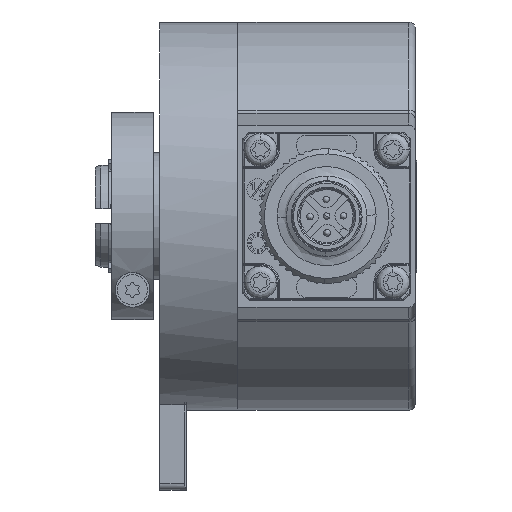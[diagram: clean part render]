
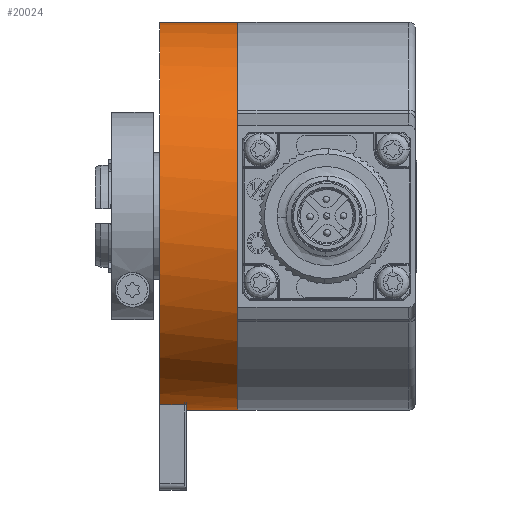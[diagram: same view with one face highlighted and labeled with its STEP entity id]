
A CAD part, front view. The second image highlights one B-rep face of the part: STEP entity #20024.
In plain terms, the highlighted cylindrical face has radius 29 mm (diameter 58 mm), a partial arc.
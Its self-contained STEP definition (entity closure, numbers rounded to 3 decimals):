
#525 = CIRCLE ( 'NONE', #21005, 29. ) ;
#2917 = DIRECTION ( 'NONE',  ( 0., 0., -1. ) ) ;
#5687 = AXIS2_PLACEMENT_3D ( 'NONE', #40277, #44515, #2917 ) ;
#6635 = EDGE_CURVE ( 'NONE', #17372, #26269, #15386, .T. ) ;
#6768 = VERTEX_POINT ( 'NONE', #16968 ) ;
#8050 = CARTESIAN_POINT ( 'NONE',  ( 8.068, 25.423, 0. ) ) ;
#8308 = DIRECTION ( 'NONE',  ( 0., 0., -1. ) ) ;
#9357 = ORIENTED_EDGE ( 'NONE', *, *, #42330, .T. ) ;
#10256 = EDGE_CURVE ( 'NONE', #6768, #17207, #51971, .T. ) ;
#13679 = ORIENTED_EDGE ( 'NONE', *, *, #10256, .F. ) ;
#14042 = VECTOR ( 'NONE', #18681, 1000. ) ;
#14200 = CIRCLE ( 'NONE', #5687, 29. ) ;
#15386 = LINE ( 'NONE', #19139, #26636 ) ;
#16049 = VERTEX_POINT ( 'NONE', #21622 ) ;
#16051 = VECTOR ( 'NONE', #35441, 1000. ) ;
#16961 = ORIENTED_EDGE ( 'NONE', *, *, #20724, .F. ) ;
#16968 = CARTESIAN_POINT ( 'NONE',  ( 0.378, 18.423, -28.142 ) ) ;
#17197 = AXIS2_PLACEMENT_3D ( 'NONE', #8050, #20334, #8308 ) ;
#17207 = VERTEX_POINT ( 'NONE', #32310 ) ;
#17372 = VERTEX_POINT ( 'NONE', #23199 ) ;
#18533 = CARTESIAN_POINT ( 'NONE',  ( -3.622, 25.423, 0. ) ) ;
#18681 = DIRECTION ( 'NONE',  ( -1., 0., 0. ) ) ;
#18920 = CARTESIAN_POINT ( 'NONE',  ( 8.068, 25.423, 29. ) ) ;
#19139 = CARTESIAN_POINT ( 'NONE',  ( 8.068, 25.423, -29. ) ) ;
#20024 = ADVANCED_FACE ( 'NONE', ( #37142 ), #45097, .T. ) ;
#20026 = CIRCLE ( 'NONE', #49793, 29. ) ;
#20334 = DIRECTION ( 'NONE',  ( 1., 0., 0. ) ) ;
#20724 = EDGE_CURVE ( 'NONE', #16049, #45340, #23426, .T. ) ;
#21005 = AXIS2_PLACEMENT_3D ( 'NONE', #18533, #42526, #42013 ) ;
#21622 = CARTESIAN_POINT ( 'NONE',  ( -3.622, 25.423, 29. ) ) ;
#22860 = CARTESIAN_POINT ( 'NONE',  ( 8.068, 25.423, -29. ) ) ;
#23199 = CARTESIAN_POINT ( 'NONE',  ( 0.378, 25.423, -29. ) ) ;
#23426 = LINE ( 'NONE', #34642, #16051 ) ;
#23926 = EDGE_LOOP ( 'NONE', ( #16961, #9357, #13679, #29998, #31571, #52165 ) ) ;
#26269 = VERTEX_POINT ( 'NONE', #22860 ) ;
#26636 = VECTOR ( 'NONE', #31948, 1000. ) ;
#28281 = EDGE_CURVE ( 'NONE', #6768, #17372, #20026, .T. ) ;
#29998 = ORIENTED_EDGE ( 'NONE', *, *, #28281, .T. ) ;
#31571 = ORIENTED_EDGE ( 'NONE', *, *, #6635, .T. ) ;
#31948 = DIRECTION ( 'NONE',  ( 1., 0., 0. ) ) ;
#32310 = CARTESIAN_POINT ( 'NONE',  ( -3.622, 18.423, -28.142 ) ) ;
#34642 = CARTESIAN_POINT ( 'NONE',  ( 8.068, 25.423, 29. ) ) ;
#35023 = CARTESIAN_POINT ( 'NONE',  ( 0.378, 25.423, 0. ) ) ;
#35441 = DIRECTION ( 'NONE',  ( 1., 0., 0. ) ) ;
#37142 = FACE_OUTER_BOUND ( 'NONE', #23926, .T. ) ;
#40277 = CARTESIAN_POINT ( 'NONE',  ( 8.068, 25.423, 0. ) ) ;
#42013 = DIRECTION ( 'NONE',  ( 0., 0., -1. ) ) ;
#42330 = EDGE_CURVE ( 'NONE', #16049, #17207, #525, .T. ) ;
#42526 = DIRECTION ( 'NONE',  ( 1., 0., 0. ) ) ;
#43252 = DIRECTION ( 'NONE',  ( 1., 0., 0. ) ) ;
#43997 = CARTESIAN_POINT ( 'NONE',  ( 8.068, 18.423, -28.142 ) ) ;
#44515 = DIRECTION ( 'NONE',  ( 1., 0., 0. ) ) ;
#45097 = CYLINDRICAL_SURFACE ( 'NONE', #17197, 29. ) ;
#45340 = VERTEX_POINT ( 'NONE', #18920 ) ;
#49793 = AXIS2_PLACEMENT_3D ( 'NONE', #35023, #43252, #51484 ) ;
#51484 = DIRECTION ( 'NONE',  ( 0., 0., 1. ) ) ;
#51921 = EDGE_CURVE ( 'NONE', #45340, #26269, #14200, .T. ) ;
#51971 = LINE ( 'NONE', #43997, #14042 ) ;
#52165 = ORIENTED_EDGE ( 'NONE', *, *, #51921, .F. ) ;
